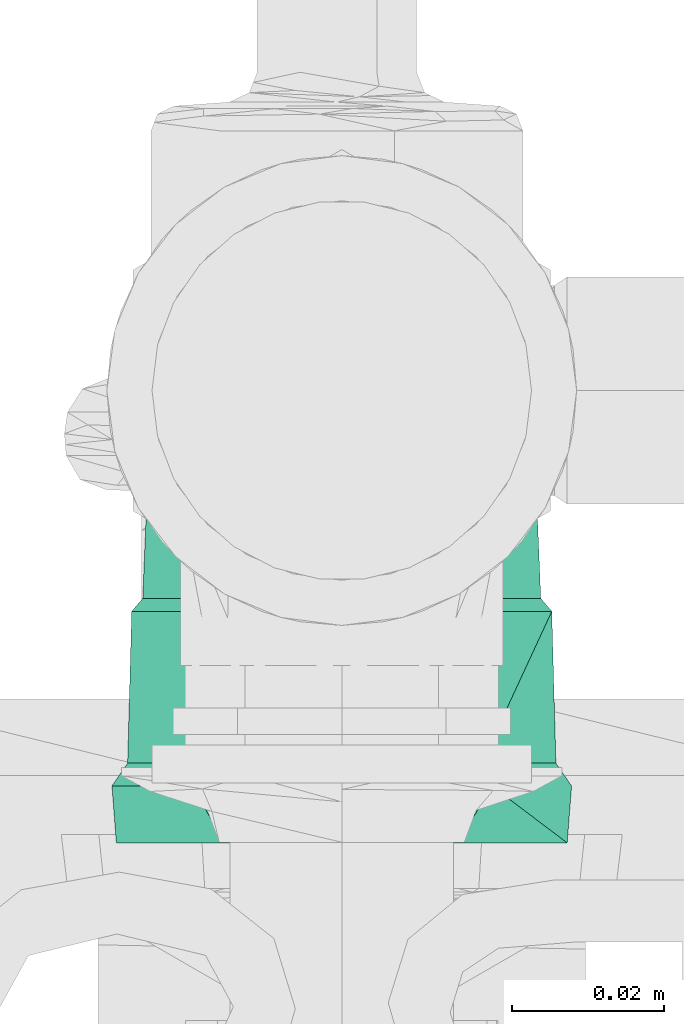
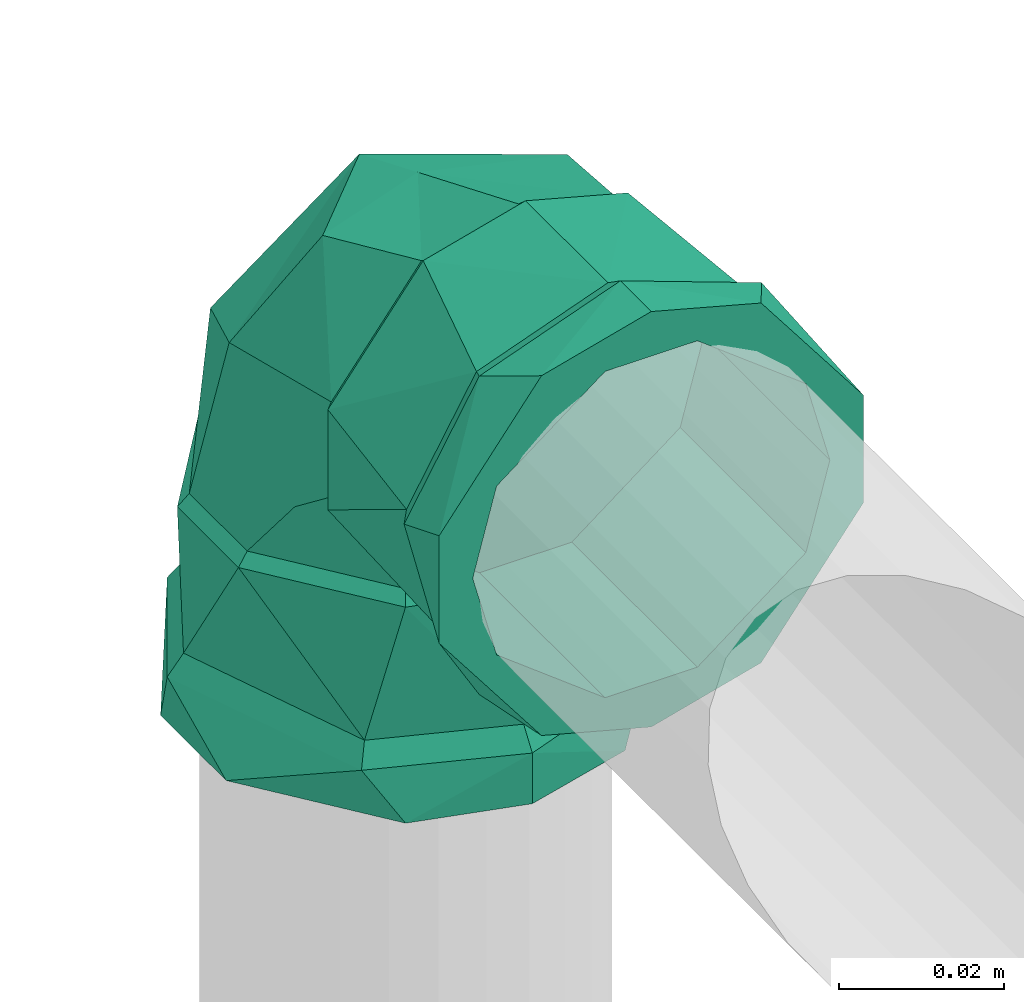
# One storey, part 158 of 589: 1 flow fitting.
"""IFC2X3 building model written with IfcOpenShell, lengths in millimetres."""

from ifc_helpers import new_model, entity, si_unit, converted_unit, derived_unit, direction, frame, origin, place, context, subcontext, project, spatial, faceted_brep, source, transform, mapped, material, type_object, type_shapes, element, save


model = new_model("IFC2X3")

# Units and contexts
model_context = context("Model", 3, precision=0.01, world=origin(), true_north=direction((6.123031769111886e-17, 1.0)))
body_context = subcontext(model_context, "Body", "Model", "MODEL_VIEW")
ifc_project = project(units=[si_unit("LENGTHUNIT", "METRE", prefix="MILLI"), si_unit("AREAUNIT", "SQUARE_METRE"), si_unit("VOLUMEUNIT", "CUBIC_METRE"), converted_unit("PLANEANGLEUNIT", "DEGREE", entity("IfcRatioMeasure", 0.017453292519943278), si_unit("PLANEANGLEUNIT", "RADIAN"), dimensions=[0, 0, 0, 0, 0, 0, 0]), si_unit("MASSUNIT", "GRAM", prefix="KILO"), derived_unit("MASSDENSITYUNIT", [(si_unit("MASSUNIT", "GRAM", prefix="KILO"), 1), (si_unit("LENGTHUNIT", "METRE"), -3)]), derived_unit("IONCONCENTRATIONUNIT", [(si_unit("MASSUNIT", "GRAM", prefix="KILO"), 1), (si_unit("LENGTHUNIT", "METRE"), -3)]), derived_unit("MOMENTOFINERTIAUNIT", [(si_unit("LENGTHUNIT", "METRE"), 4)]), si_unit("TIMEUNIT", "SECOND"), si_unit("FREQUENCYUNIT", "HERTZ"), si_unit("THERMODYNAMICTEMPERATUREUNIT", "DEGREE_CELSIUS"), derived_unit("THERMALTRANSMITTANCEUNIT", [(si_unit("MASSUNIT", "GRAM", prefix="KILO"), 1), (si_unit("THERMODYNAMICTEMPERATUREUNIT", "KELVIN"), -1), (si_unit("TIMEUNIT", "SECOND"), -3)]), derived_unit("THERMALCONDUCTANCEUNIT", [(si_unit("MASSUNIT", "GRAM", prefix="KILO"), 1), (si_unit("THERMODYNAMICTEMPERATUREUNIT", "KELVIN"), -1), (si_unit("TIMEUNIT", "SECOND"), -3), (si_unit("LENGTHUNIT", "METRE"), 1)]), derived_unit("VOLUMETRICFLOWRATEUNIT", [(si_unit("LENGTHUNIT", "METRE"), 3), (si_unit("TIMEUNIT", "SECOND"), -1)]), derived_unit("MASSFLOWRATEUNIT", [(si_unit("MASSUNIT", "GRAM", prefix="KILO"), 1), (si_unit("TIMEUNIT", "SECOND"), -1)]), derived_unit("ROTATIONALFREQUENCYUNIT", [(si_unit("TIMEUNIT", "SECOND"), -1)]), si_unit("ELECTRICCURRENTUNIT", "AMPERE"), si_unit("ELECTRICVOLTAGEUNIT", "VOLT"), si_unit("POWERUNIT", "WATT"), si_unit("FORCEUNIT", "NEWTON", prefix="KILO"), si_unit("ILLUMINANCEUNIT", "LUX"), si_unit("LUMINOUSFLUXUNIT", "LUMEN"), si_unit("LUMINOUSINTENSITYUNIT", "CANDELA"), derived_unit("USERDEFINED", [(si_unit("MASSUNIT", "GRAM", prefix="KILO"), -1), (si_unit("LENGTHUNIT", "METRE"), -2), (si_unit("TIMEUNIT", "SECOND"), 3), (si_unit("LUMINOUSFLUXUNIT", "LUMEN"), 1)]), derived_unit("USERDEFINED", [(si_unit("MASSUNIT", "GRAM", prefix="KILO"), 1), (si_unit("TIMEUNIT", "SECOND"), -3), (si_unit("LENGTHUNIT", "METRE"), 3), (si_unit("ELECTRICCURRENTUNIT", "AMPERE"), -2)]), derived_unit("SOUNDPOWERUNIT", [(si_unit("MASSUNIT", "GRAM", prefix="KILO"), 1), (si_unit("TIMEUNIT", "SECOND"), -3), (si_unit("LENGTHUNIT", "METRE"), 2)]), derived_unit("SOUNDPRESSUREUNIT", [(si_unit("MASSUNIT", "GRAM", prefix="KILO"), 1), (si_unit("LENGTHUNIT", "METRE"), -1), (si_unit("TIMEUNIT", "SECOND"), -2)]), derived_unit("LINEARVELOCITYUNIT", [(si_unit("LENGTHUNIT", "METRE"), 1), (si_unit("TIMEUNIT", "SECOND"), -1)]), si_unit("PRESSUREUNIT", "PASCAL"), derived_unit("USERDEFINED", [(si_unit("MASSUNIT", "GRAM", prefix="KILO"), 1), (si_unit("LENGTHUNIT", "METRE"), -2), (si_unit("TIMEUNIT", "SECOND"), -2)]), derived_unit("LINEARFORCEUNIT", [(si_unit("MASSUNIT", "GRAM", prefix="KILO"), 1), (si_unit("TIMEUNIT", "SECOND"), -2)]), derived_unit("PLANARFORCEUNIT", [(si_unit("MASSUNIT", "GRAM", prefix="KILO"), 1), (si_unit("LENGTHUNIT", "METRE"), -1), (si_unit("TIMEUNIT", "SECOND"), -2)]), derived_unit("SPECIFICHEATCAPACITYUNIT", [(si_unit("THERMODYNAMICTEMPERATUREUNIT", "KELVIN"), -1), (si_unit("LENGTHUNIT", "METRE"), 2), (si_unit("TIMEUNIT", "SECOND"), -2)]), derived_unit("HEATINGVALUEUNIT", [(si_unit("LENGTHUNIT", "METRE"), 2), (si_unit("TIMEUNIT", "SECOND"), -2)]), derived_unit("VAPORPERMEABILITYUNIT", [(si_unit("LENGTHUNIT", "METRE"), -1), (si_unit("TIMEUNIT", "SECOND"), 1)]), derived_unit("DYNAMICVISCOSITYUNIT", [(si_unit("MASSUNIT", "GRAM", prefix="KILO"), 1), (si_unit("TIMEUNIT", "SECOND"), -1), (si_unit("LENGTHUNIT", "METRE"), -1)]), derived_unit("THERMALEXPANSIONCOEFFICIENTUNIT", [(si_unit("THERMODYNAMICTEMPERATUREUNIT", "KELVIN"), -1)]), derived_unit("MODULUSOFELASTICITYUNIT", [(si_unit("MASSUNIT", "GRAM", prefix="KILO"), 1), (si_unit("LENGTHUNIT", "METRE"), -1), (si_unit("TIMEUNIT", "SECOND"), -2)]), derived_unit("ISOTHERMALMOISTURECAPACITYUNIT", [(si_unit("LENGTHUNIT", "METRE"), 3), (si_unit("MASSUNIT", "GRAM", prefix="KILO"), -1)]), derived_unit("MOISTUREDIFFUSIVITYUNIT", [(si_unit("TIMEUNIT", "SECOND"), -1), (si_unit("LENGTHUNIT", "METRE"), 2)])], contexts=[model_context])

# Site, building, storey
site_placement = place(None, origin())
site = spatial("IfcSite", under=ifc_project, at=site_placement, Name="Default", CompositionType="ELEMENT")
building_placement = place(site_placement, origin())
building = spatial("IfcBuilding", under=site, at=building_placement, CompositionType="ELEMENT")
storey_placement = place(building_placement, frame((0.0, 0.0, 100.0)))
storey = spatial("IfcBuildingStorey", under=building, at=storey_placement, Name="TÉRREO", CompositionType="ELEMENT", Elevation=100.0)

# Flow fitting
ifc_material = material(Name="PVC Marrom")
pipe_fitting_type = type_object("IfcPipeFittingType", Name="PVC Marrom Soldável_Joelho 45°_90°_Rodrigo MEP:Joelho", PredefinedType="NOTDEFINED", material=ifc_material)
shared_shape = source(origin(), body_context, "Body", "Brep", [
    faceted_brep([(-28.650000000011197, 29.100000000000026, 0.0), (-24.811627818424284, 29.100000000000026, 14.324999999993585), (-16.11339673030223, 29.100000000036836, 20.999387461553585), (-7.415165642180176, 29.10000000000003, 27.673774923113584), (7.415165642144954, 29.100000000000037, 27.67377492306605), (16.113396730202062, 29.100000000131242, 20.99938746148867), (24.811627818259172, 29.100000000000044, 14.324999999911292), (28.649999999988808, 29.100000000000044, 0.0), (24.811627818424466, 29.100000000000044, -14.32500000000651), (16.113396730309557, 29.09999999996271, -20.99938746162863), (7.41516564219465, 29.100000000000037, -27.673774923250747), (-7.4151656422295, 29.10000000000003, -27.673774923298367), (-16.11339673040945, 29.099999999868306, -20.999387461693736), (-24.811627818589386, 29.100000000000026, -14.325000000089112), (7.026937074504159, 27.400000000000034, 26.2248861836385), (-7.026937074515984, 27.400000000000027, 26.224886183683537), (-15.269763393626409, 27.400000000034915, 19.899943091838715), (-23.512589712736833, 27.400000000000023, 13.574999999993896), (-27.150000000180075, 27.400000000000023, 0.0), (-23.512589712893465, 27.400000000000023, -13.575000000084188), (-15.269763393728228, 27.39999999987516, -19.899943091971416), (-7.02693707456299, 27.400000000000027, -26.224886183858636), (7.026937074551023, 27.400000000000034, -26.224886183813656), (15.269763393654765, 27.399999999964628, -19.899943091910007), (23.51258971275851, 27.40000000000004, -13.575000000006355), (27.149999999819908, 27.40000000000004, 0.0), (23.512589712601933, 27.40000000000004, 13.574999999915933), (15.269763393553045, 27.400000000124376, 19.899943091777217)], [[[0, 1, 2, 3, 4, 5, 6, 7, 8, 9, 10, 11, 12, 13]], [[14, 15, 16, 17, 18, 19, 20, 21, 22, 23, 24, 25, 26, 27]], [[8, 7, 25, 24]], [[10, 9, 8, 24, 23, 22]], [[20, 19, 13, 12, 11, 21]], [[22, 21, 11, 10]], [[0, 13, 19, 18]], [[1, 0, 18, 17]], [[3, 2, 1, 17, 16, 15]], [[27, 26, 6, 5, 4, 14]], [[15, 14, 4, 3]], [[7, 6, 26, 25]]]),
    faceted_brep([(-29.09999999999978, -28.650000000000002, 0.0), (-29.09999999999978, -24.811627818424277, 14.32500000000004), (-29.09999999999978, -16.113396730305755, 20.99938746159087), (-29.09999999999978, -7.415165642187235, 27.673774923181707), (-29.09999999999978, 7.415165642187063, 27.6737749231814), (-29.10000000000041, 16.113396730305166, 20.999387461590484), (-29.09999999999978, 24.81162781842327, 14.324999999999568), (-29.09999999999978, 28.649999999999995, 0.0), (-29.09999999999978, 24.811627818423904, -14.324999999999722), (-29.10000000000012, 16.11339673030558, -20.999387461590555), (-29.09999999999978, 7.415165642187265, -27.67377492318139), (-29.09999999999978, -7.415165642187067, -27.67377492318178), (-29.099999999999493, -16.113396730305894, -20.99938746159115), (-29.09999999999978, -24.81162781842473, -14.325000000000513), (-27.39999999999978, 23.512589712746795, 13.574999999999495), (-27.40000000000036, 15.269763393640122, 19.89994309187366), (-27.39999999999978, 7.026937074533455, 26.22488618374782), (-27.39999999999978, -7.02693707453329, 26.224886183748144), (-27.399999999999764, -15.269763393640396, 19.89994309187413), (-27.39999999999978, -23.512589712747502, 13.575000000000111), (-27.39999999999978, -27.150000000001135, 0.0), (-27.39999999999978, -23.51258971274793, -13.575000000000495), (-27.399999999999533, -15.269763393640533, -19.899943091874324), (-27.39999999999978, -7.026937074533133, -26.224886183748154), (-27.39999999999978, 7.026937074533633, -26.22488618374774), (-27.400000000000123, 15.269763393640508, -19.899943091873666), (-27.39999999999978, 23.512589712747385, -13.574999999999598), (-27.39999999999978, 27.149999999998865, 0.0)], [[[0, 1, 2, 3, 4, 5, 6, 7, 8, 9, 10, 11, 12, 13]], [[14, 15, 16, 17, 18, 19, 20, 21, 22, 23, 24, 25, 26, 27]], [[8, 7, 27, 26]], [[10, 9, 8, 26, 25, 24]], [[22, 21, 13, 12, 11, 23]], [[24, 23, 11, 10]], [[0, 13, 21, 20]], [[1, 0, 20, 19]], [[3, 2, 1, 19, 18, 17]], [[15, 14, 6, 5, 4, 16]], [[17, 16, 4, 3]], [[7, 6, 14, 27]]]),
    faceted_brep([(-59.59999999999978, -7.958685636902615, -29.702219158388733), (-59.59999999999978, 0.0, -25.0), (-59.59999999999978, 7.958685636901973, -29.702219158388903), (-59.59999999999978, -12.500000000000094, -21.650635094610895), (-59.59999999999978, -26.630281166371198, -15.375000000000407), (-59.59999999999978, -24.148145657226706, -6.4704761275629), (-59.59999999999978, -30.749999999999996, 0.0), (-59.59999999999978, -24.148145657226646, 6.470476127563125), (-59.59999999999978, -26.630281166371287, 15.37499999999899), (-59.59999999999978, -12.499999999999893, 21.65063509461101), (-59.59999999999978, -7.958685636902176, 29.702219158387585), (-59.59999999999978, 0.0, 25.0), (-59.59999999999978, 7.958685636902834, 29.70221915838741), (-59.59999999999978, 12.499999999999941, 21.650635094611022), (-59.59999999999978, 26.630281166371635, 15.374999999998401), (-59.59999999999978, 24.14814565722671, 6.470476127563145), (-59.59999999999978, 30.750000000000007, 0.0), (-59.59999999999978, 24.14814565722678, -6.470476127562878), (-59.59999999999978, 26.63028116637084, -15.375000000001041), (-59.59999999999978, 12.500000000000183, -21.65063509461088), (-52.09999999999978, 30.750000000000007, 0.0), (-52.10000000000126, 23.555335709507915, 19.76635170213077), (-52.100000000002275, 5.338054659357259, 30.28312520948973), (-52.10000000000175, -23.557724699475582, 19.763504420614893), (-52.09999999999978, -30.749999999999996, 0.0), (-52.10000000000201, -9.109835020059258, 25.023314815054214), (-52.09999999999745, -23.557724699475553, -19.76350442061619), (-52.09999999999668, -5.34171494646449, -30.28247977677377), (-52.09999999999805, 23.5553357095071, -19.766351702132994), (-52.09999999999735, 9.106810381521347, -25.02441573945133), (-49.10000000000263, 4.971874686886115, 28.21529659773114), (-49.09999999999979, -28.650000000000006, 0.0), (-49.100000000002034, -21.95076584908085, 18.41158273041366), (-49.10000000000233, -8.489445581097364, 23.3134396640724), (-49.100000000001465, 21.94614669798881, 18.417088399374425), (-49.0999999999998, 28.649999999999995, 0.0), (-49.09999999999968, 21.946146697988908, -18.41708839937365), (-49.09999999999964, 8.483597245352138, -23.31556846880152), (-49.09999999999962, -21.95076584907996, -18.411582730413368), (-49.099999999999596, -4.978952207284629, -28.214048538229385), (-29.09999999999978, -12.500000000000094, -21.650635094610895), (-29.09999999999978, -7.415165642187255, -27.6737749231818), (-29.09999999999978, 0.0, -25.0), (-29.09999999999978, -24.811627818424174, -14.324999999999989), (-29.09999999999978, -24.148145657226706, -6.4704761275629), (-29.09999999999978, -28.650000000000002, 0.0), (-29.09999999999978, -24.148145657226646, 6.470476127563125), (-29.09999999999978, -24.811627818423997, 14.3250000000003), (-29.09999999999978, -12.499999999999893, 21.65063509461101), (-29.09999999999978, -7.41516564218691, 27.67377492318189), (-29.09999999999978, 0.0, 25.0), (-29.09999999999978, 7.415165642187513, 27.67377492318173), (-29.09999999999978, 12.499999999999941, 21.650635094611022), (-29.09999999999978, 24.811627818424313, 14.32499999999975), (-29.09999999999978, 24.14814565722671, 6.470476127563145), (-29.09999999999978, 28.650000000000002, 0.0), (-29.09999999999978, 24.14814565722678, -6.470476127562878), (-29.09999999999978, 24.81162781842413, -14.325000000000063), (-29.09999999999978, 12.500000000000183, -21.65063509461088), (-29.09999999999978, 7.415165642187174, -27.67377492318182)], [[[0, 1, 2]], [[1, 0, 3]], [[4, 3, 0]], [[3, 4, 5]], [[5, 4, 6]], [[7, 5, 6]], [[7, 6, 8]], [[8, 9, 7]], [[8, 10, 9]], [[9, 10, 11]], [[12, 11, 10]], [[13, 11, 12]], [[13, 12, 14]], [[14, 15, 13]], [[15, 14, 16]], [[15, 16, 17]], [[18, 17, 16]], [[2, 19, 18]], [[17, 18, 19]], [[19, 2, 1]], [[16, 14, 20]], [[14, 21, 20]], [[21, 14, 12]], [[21, 12, 22]], [[23, 10, 8]], [[24, 8, 6]], [[10, 23, 25, 22]], [[23, 8, 24]], [[10, 22, 12]], [[6, 4, 24]], [[4, 26, 24]], [[26, 4, 0]], [[26, 0, 27]], [[28, 2, 18]], [[20, 18, 16]], [[2, 28, 29, 27]], [[28, 18, 20]], [[2, 27, 0]], [[25, 30, 22]], [[31, 32, 24]], [[24, 32, 23]], [[23, 33, 25]], [[34, 35, 21]], [[23, 32, 33]], [[21, 22, 34]], [[20, 21, 35]], [[30, 25, 33]], [[34, 22, 30]], [[35, 36, 28]], [[28, 20, 35]], [[36, 29, 28]], [[36, 37, 29]], [[37, 27, 29]], [[38, 31, 24]], [[38, 26, 39]], [[26, 38, 24]], [[27, 37, 39]], [[39, 26, 27]], [[40, 41, 42]], [[43, 41, 40]], [[40, 44, 43]], [[44, 45, 43]], [[46, 45, 44]], [[45, 46, 47]], [[48, 47, 46]], [[47, 48, 49]], [[50, 49, 48]], [[51, 49, 50]], [[52, 51, 50]], [[51, 52, 53]], [[54, 53, 52]], [[53, 54, 55]], [[55, 54, 56]], [[55, 56, 57]], [[57, 56, 58]], [[58, 42, 59]], [[59, 57, 58]], [[41, 59, 42]], [[35, 34, 53]], [[35, 53, 55]], [[53, 34, 51]], [[34, 30, 51]], [[49, 30, 33, 32]], [[47, 32, 31]], [[32, 47, 49]], [[47, 31, 45]], [[30, 49, 51]], [[31, 38, 43]], [[31, 43, 45]], [[43, 38, 41]], [[38, 39, 41]], [[59, 39, 37, 36]], [[57, 36, 35]], [[36, 57, 59]], [[57, 35, 55]], [[39, 59, 41]], [[9, 11, 50, 48]], [[7, 9, 48, 46]], [[46, 44, 5, 7]], [[3, 5, 44, 40]], [[1, 3, 40, 42]], [[19, 1, 42, 58]], [[17, 19, 58, 56]], [[56, 54, 15, 17]], [[13, 15, 54, 52]], [[11, 13, 52, 50]]]),
    faceted_brep([(-27.39999999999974, 7.026937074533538, -26.224886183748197), (-27.399999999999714, -7.026937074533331, -26.224886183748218), (-27.399999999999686, -23.51258971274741, -13.575000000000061), (-27.399999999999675, -27.149999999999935, 0.0), (-27.399999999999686, -23.512589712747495, 13.574999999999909), (-27.399999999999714, -7.026937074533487, 26.224886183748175), (-27.39999999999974, 7.026937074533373, 26.22488618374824), (-27.399999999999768, 23.512589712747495, 13.57500000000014), (-27.39999999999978, 27.150000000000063, 0.0), (-27.399999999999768, 23.51258971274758, -13.574999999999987), (-7.026937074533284, 27.399999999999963, -26.224886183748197), (-23.512589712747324, 27.40000000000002, -13.574999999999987), (-27.14999999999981, 27.40000000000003, 0.0), (-23.51258971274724, 27.40000000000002, 13.57500000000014), (-7.026937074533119, 27.399999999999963, 26.22488618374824), (7.026937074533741, 27.39999999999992, 26.224886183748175), (23.512589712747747, 27.399999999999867, 13.574999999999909), (27.15000000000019, 27.399999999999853, 0.0), (23.512589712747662, 27.399999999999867, -13.575000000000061), (7.026937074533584, 27.39999999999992, -26.224886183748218), (-0.7421356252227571, 0.7421330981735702, 25.120395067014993), (-9.561084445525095, -17.668940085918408, 17.12121907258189), (-2.9564114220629, -17.02513409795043, 0.0), (11.17267491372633, -11.172674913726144, 0.0), (17.668938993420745, 9.561081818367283, 17.12121913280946), (-27.22322330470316, 27.223223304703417, 0.0), (-15.959081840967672, 15.95908155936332, 24.723104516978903), (17.025133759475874, 2.956410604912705, 0.0), (-9.561084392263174, -17.668940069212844, -17.12121906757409), (-15.959081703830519, 15.9590814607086, -24.723104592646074), (-0.7421353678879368, 0.7421331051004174, -25.120394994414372), (17.668938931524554, 9.561081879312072, -17.121219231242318)], [[[0, 1, 2, 3, 4, 5, 6, 7, 8, 9]], [[10, 11, 12, 13, 14, 15, 16, 17, 18, 19]], [[5, 20, 6]], [[21, 4, 22]], [[23, 21, 22]], [[15, 20, 24]], [[21, 5, 4]], [[25, 7, 13]], [[23, 24, 20]], [[25, 8, 7]], [[7, 6, 26]], [[4, 3, 22]], [[20, 21, 23]], [[27, 17, 16]], [[20, 26, 6]], [[20, 5, 21]], [[24, 27, 16]], [[7, 26, 13]], [[25, 13, 12]], [[24, 16, 15]], [[20, 14, 26]], [[14, 13, 26]], [[24, 23, 27]], [[14, 20, 15]], [[28, 23, 22]], [[28, 2, 1]], [[29, 9, 11]], [[29, 30, 0]], [[3, 2, 22]], [[30, 19, 31]], [[2, 28, 22]], [[30, 1, 0]], [[23, 28, 30]], [[30, 29, 10]], [[9, 8, 25]], [[25, 12, 11]], [[23, 31, 27]], [[1, 30, 28]], [[11, 10, 29]], [[30, 10, 19]], [[18, 17, 27]], [[23, 30, 31]], [[9, 29, 0]], [[31, 19, 18]], [[18, 27, 31]], [[11, 9, 25]]]),
    faceted_brep([(-12.499999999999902, 29.100000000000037, -21.650635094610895), (-7.415165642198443, 29.100000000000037, -27.6737749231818), (0.0, 29.100000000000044, -25.0), (-24.81162781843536, 29.100000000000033, -14.324999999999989), (-24.148145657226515, 29.100000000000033, -6.4704761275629), (-28.650000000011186, 29.100000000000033, 0.0), (-24.148145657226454, 29.100000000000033, 6.470476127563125), (-24.81162781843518, 29.100000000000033, 14.3250000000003), (-12.4999999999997, 29.100000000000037, 21.65063509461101), (-7.4151656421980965, 29.100000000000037, 27.67377492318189), (0.0, 29.100000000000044, 25.0), (7.415165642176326, 29.100000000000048, 27.67377492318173), (12.500000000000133, 29.100000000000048, 21.650635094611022), (24.811627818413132, 29.10000000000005, 14.32499999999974), (24.148145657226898, 29.10000000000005, 6.470476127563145), (28.649999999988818, 29.10000000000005, 0.0), (24.148145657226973, 29.10000000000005, -6.470476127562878), (24.811627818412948, 29.10000000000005, -14.325000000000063), (12.500000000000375, 29.100000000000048, -21.65063509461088), (7.415165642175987, 29.100000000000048, -27.67377492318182), (28.64999999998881, 49.100000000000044, 0.0), (21.94614669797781, 49.10000000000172, 18.417088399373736), (8.483597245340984, 49.100000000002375, 23.315568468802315), (-4.978952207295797, 49.100000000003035, 28.2140485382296), (-21.950765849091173, 49.10000000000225, 18.41158273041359), (-28.65000000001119, 49.10000000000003, 0.0), (-21.95076584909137, 49.09999999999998, -18.411582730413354), (-8.48944558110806, 49.09999999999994, -23.313439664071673), (4.971874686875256, 49.09999999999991, -28.215296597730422), (21.94614669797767, 49.099999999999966, -18.417088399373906), (-23.55533570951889, 52.10000000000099, 19.766351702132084), (-30.750000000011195, 52.10000000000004, 0.0), (-5.33805465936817, 52.10000000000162, 30.283125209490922), (23.557724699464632, 52.10000000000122, 19.763504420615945), (9.10983502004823, 52.10000000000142, 25.023314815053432), (30.749999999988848, 52.100000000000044, 0.0), (23.557724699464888, 52.10000000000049, -19.763504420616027), (5.3417149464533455, 52.10000000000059, -30.282479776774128), (-23.55533570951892, 52.100000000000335, -19.76635170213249), (-9.106810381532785, 52.10000000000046, -25.02441573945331), (-7.958685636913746, 59.60000000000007, -29.702219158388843), (-12.499999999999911, 59.600000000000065, -21.650635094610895), (0.0, 59.60000000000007, -25.0), (-26.63028116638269, 59.600000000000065, -15.374999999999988), (7.95868563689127, 59.60000000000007, -29.702219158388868), (-24.14814565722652, 59.600000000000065, -6.4704761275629), (-30.750000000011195, 59.60000000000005, 0.0), (-24.148145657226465, 59.600000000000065, 6.470476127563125), (-26.630281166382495, 59.600000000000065, 15.375000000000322), (-12.49999999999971, 59.600000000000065, 21.65063509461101), (-7.958685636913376, 59.60000000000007, 29.70221915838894), (0.0, 59.60000000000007, 25.0), (7.958685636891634, 59.60000000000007, 29.702219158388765), (12.500000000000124, 59.60000000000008, 21.650635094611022), (26.630281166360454, 59.60000000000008, 15.374999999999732), (24.14814565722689, 59.60000000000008, 6.470476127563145), (30.74999999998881, 59.60000000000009, 0.0), (24.148145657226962, 59.60000000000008, -6.470476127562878), (26.63028116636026, 59.60000000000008, -15.37500000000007), (12.500000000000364, 59.60000000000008, -21.65063509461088)], [[[0, 1, 2]], [[3, 1, 0]], [[0, 4, 3]], [[4, 5, 3]], [[6, 5, 4]], [[5, 6, 7]], [[8, 7, 6]], [[7, 8, 9]], [[10, 9, 8]], [[11, 9, 10]], [[12, 11, 10]], [[11, 12, 13]], [[14, 13, 12]], [[13, 14, 15]], [[15, 14, 16]], [[15, 16, 17]], [[17, 16, 18]], [[18, 2, 19]], [[19, 17, 18]], [[1, 19, 2]], [[20, 21, 13]], [[20, 13, 15]], [[13, 21, 11]], [[11, 21, 22, 23]], [[9, 23, 24]], [[7, 24, 25]], [[24, 7, 9]], [[7, 25, 5]], [[23, 9, 11]], [[25, 26, 3]], [[25, 3, 5]], [[3, 26, 1]], [[1, 26, 27, 28]], [[19, 28, 29]], [[17, 29, 20]], [[29, 17, 19]], [[17, 20, 15]], [[28, 19, 1]], [[24, 23, 30]], [[25, 24, 31]], [[31, 24, 30]], [[23, 32, 30]], [[21, 20, 33]], [[21, 33, 34]], [[22, 32, 23]], [[35, 33, 20]], [[32, 22, 34]], [[22, 21, 34]], [[20, 29, 36]], [[36, 35, 20]], [[37, 36, 29]], [[38, 39, 27]], [[29, 28, 37]], [[26, 25, 31]], [[38, 27, 26]], [[38, 26, 31]], [[28, 39, 37]], [[39, 28, 27]], [[40, 41, 42]], [[41, 40, 43]], [[42, 44, 40]], [[43, 45, 41]], [[43, 46, 45]], [[45, 46, 47]], [[48, 47, 46]], [[47, 48, 49]], [[50, 49, 48]], [[49, 50, 51]], [[51, 50, 52]], [[52, 53, 51]], [[54, 53, 52]], [[53, 54, 55]], [[56, 55, 54]], [[56, 57, 55]], [[58, 57, 56]], [[59, 57, 58]], [[59, 58, 44]], [[44, 42, 59]], [[56, 54, 35]], [[54, 33, 35]], [[33, 54, 52]], [[52, 32, 34, 33]], [[30, 50, 48]], [[31, 48, 46]], [[50, 30, 32]], [[30, 48, 31]], [[50, 32, 52]], [[46, 43, 31]], [[43, 38, 31]], [[38, 43, 40]], [[40, 37, 39, 38]], [[36, 44, 58]], [[35, 58, 56]], [[44, 36, 37]], [[36, 58, 35]], [[44, 37, 40]], [[49, 51, 10, 8]], [[47, 49, 8, 6]], [[6, 4, 45, 47]], [[41, 45, 4, 0]], [[42, 41, 0, 2]], [[59, 42, 2, 18]], [[57, 59, 18, 16]], [[16, 14, 55, 57]], [[53, 55, 14, 12]], [[51, 53, 12, 10]]]),
])
type_shapes(pipe_fitting_type, [shared_shape])
flow_fitting_placement = place(storey_placement, frame((8798.142188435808, -7965.828664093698, 2995.0), z_axis=(1.0, 0.0, 0.0), x_axis=(0.0, 0.0, 1.0)))
element("IfcFlowFitting", 1, at=flow_fitting_placement, inside=storey, type_object=pipe_fitting_type, material=ifc_material, Name="PVC Marrom Soldável_Joelho 45°_90°_Rodrigo MEP:Joelho", ObjectType="PVC Marrom Soldável_Joelho 45°_90°_Rodrigo MEP:Joelho", context=body_context, shape_type="MappedRepresentation", body=[
    mapped(shared_shape, transform((0.0, 0.0, 0.0), scale=1.0)),
])

save(model, "model.ifc")
